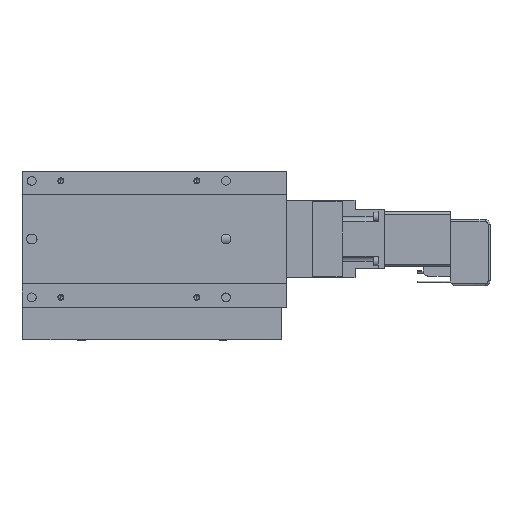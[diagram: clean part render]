
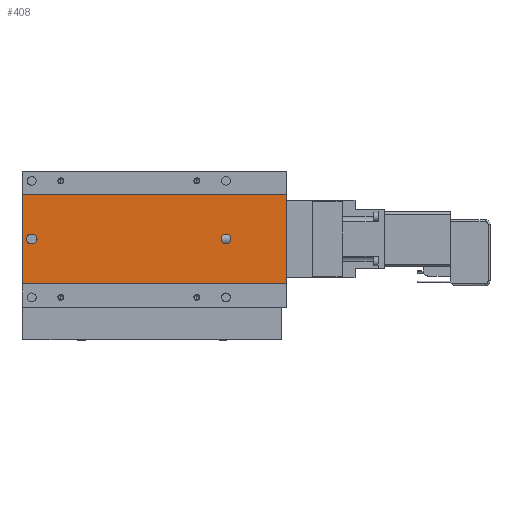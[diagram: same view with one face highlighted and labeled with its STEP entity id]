
A CAD part, front view. The second image highlights one B-rep face of the part: STEP entity #408.
In plain terms, the highlighted planar face has unit normal (0, -1, 0).
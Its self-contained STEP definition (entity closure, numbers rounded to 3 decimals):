
#408=ADVANCED_FACE('',(#1106,#1107,#1108),#1109,.F.);
#1106=FACE_BOUND('',#2377,.T.);
#1107=FACE_OUTER_BOUND('',#2378,.T.);
#1108=FACE_BOUND('',#2379,.T.);
#1109=PLANE('',#2380);
#2377=EDGE_LOOP('',(#4191,#4192,#4193,#4194));
#2378=EDGE_LOOP('',(#4195,#4196,#4197,#4198));
#2379=EDGE_LOOP('',(#4199,#4200,#4201));
#2380=AXIS2_PLACEMENT_3D('',#4202,#4203,#4204);
#4191=ORIENTED_EDGE('',*,*,#8497,.F.);
#4192=ORIENTED_EDGE('',*,*,#8498,.F.);
#4193=ORIENTED_EDGE('',*,*,#8499,.F.);
#4194=ORIENTED_EDGE('',*,*,#8500,.F.);
#4195=ORIENTED_EDGE('',*,*,#8482,.T.);
#4196=ORIENTED_EDGE('',*,*,#8501,.F.);
#4197=ORIENTED_EDGE('',*,*,#8502,.F.);
#4198=ORIENTED_EDGE('',*,*,#8503,.T.);
#4199=ORIENTED_EDGE('',*,*,#8382,.F.);
#4200=ORIENTED_EDGE('',*,*,#8381,.F.);
#4201=ORIENTED_EDGE('',*,*,#8504,.F.);
#4202=CARTESIAN_POINT('',(81.0,0.3,23.1));
#4203=DIRECTION('',(0.0,1.0,0.));
#4204=DIRECTION('',(1.0,0.0,0.0));
#8381=EDGE_CURVE('',#9978,#9980,#9981,.F.);
#8382=EDGE_CURVE('',#9980,#9974,#9982,.F.);
#8482=EDGE_CURVE('',#10169,#10167,#10170,.T.);
#8497=EDGE_CURVE('',#10197,#10198,#10199,.F.);
#8498=EDGE_CURVE('',#10200,#10197,#10201,.T.);
#8499=EDGE_CURVE('',#10202,#10200,#10203,.F.);
#8500=EDGE_CURVE('',#10198,#10202,#10204,.T.);
#8501=EDGE_CURVE('',#10205,#10167,#10206,.T.);
#8502=EDGE_CURVE('',#10207,#10205,#10208,.T.);
#8503=EDGE_CURVE('',#10207,#10169,#10209,.T.);
#8504=EDGE_CURVE('',#9974,#9978,#10210,.F.);
#9974=VERTEX_POINT('',#12506);
#9978=VERTEX_POINT('',#12511);
#9980=VERTEX_POINT('',#12514);
#9981=CIRCLE('',#12515,2.5);
#9982=CIRCLE('',#12516,2.5);
#10167=VERTEX_POINT('',#12757);
#10169=VERTEX_POINT('',#12760);
#10170=LINE('',#12761,#12762);
#10197=VERTEX_POINT('',#12802);
#10198=VERTEX_POINT('',#12803);
#10199=CIRCLE('',#12804,2.5);
#10200=VERTEX_POINT('',#12805);
#10201=LINE('',#12806,#12807);
#10202=VERTEX_POINT('',#12808);
#10203=CIRCLE('',#12809,2.5);
#10204=LINE('',#12810,#12811);
#10205=VERTEX_POINT('',#12812);
#10206=LINE('',#12813,#12814);
#10207=VERTEX_POINT('',#12815);
#10208=LINE('',#12816,#12817);
#10209=LINE('',#12818,#12819);
#10210=CIRCLE('',#12820,2.5);
#12506=CARTESIAN_POINT('',(47.5,0.3,0.));
#12511=CARTESIAN_POINT('',(52.5,0.3,0.));
#12514=CARTESIAN_POINT('',(50.0,0.3,2.5));
#12515=AXIS2_PLACEMENT_3D('',#16137,#16138,#16139);
#12516=AXIS2_PLACEMENT_3D('',#16140,#16141,#16142);
#12757=CARTESIAN_POINT('',(-55.0,0.3,-23.1));
#12760=CARTESIAN_POINT('',(-55.0,0.3,23.1));
#12761=CARTESIAN_POINT('',(-55.0,0.3,23.1));
#12762=VECTOR('',#16326,1000.0);
#12802=CARTESIAN_POINT('',(-50.25,0.3,2.5));
#12803=CARTESIAN_POINT('',(-50.25,0.3,-2.5));
#12804=AXIS2_PLACEMENT_3D('',#16343,#16344,#16345);
#12805=CARTESIAN_POINT('',(-49.75,0.3,2.5));
#12806=CARTESIAN_POINT('',(81.0,0.3,2.5));
#12807=VECTOR('',#16346,1000.0);
#12808=CARTESIAN_POINT('',(-49.75,0.3,-2.5));
#12809=AXIS2_PLACEMENT_3D('',#16347,#16348,#16349);
#12810=CARTESIAN_POINT('',(81.0,0.3,-2.5));
#12811=VECTOR('',#16350,1000.0);
#12812=CARTESIAN_POINT('',(81.0,0.3,-23.1));
#12813=CARTESIAN_POINT('',(81.0,0.3,-23.1));
#12814=VECTOR('',#16351,1000.0);
#12815=CARTESIAN_POINT('',(81.0,0.3,23.1));
#12816=CARTESIAN_POINT('',(81.0,0.3,23.1));
#12817=VECTOR('',#16352,1000.0);
#12818=CARTESIAN_POINT('',(81.0,0.3,23.1));
#12819=VECTOR('',#16353,1000.0);
#12820=AXIS2_PLACEMENT_3D('',#16354,#16355,#16356);
#16137=CARTESIAN_POINT('',(50.0,0.3,0.0));
#16138=DIRECTION('',(0.0,1.0,0.));
#16139=DIRECTION('',(0.0,0.,1.0));
#16140=CARTESIAN_POINT('',(50.0,0.3,0.0));
#16141=DIRECTION('',(0.0,1.0,0.));
#16142=DIRECTION('',(0.0,0.,1.0));
#16326=DIRECTION('',(0.0,0.,-1.0));
#16343=CARTESIAN_POINT('',(-50.25,0.3,0.));
#16344=DIRECTION('',(0.0,1.0,0.));
#16345=DIRECTION('',(0.0,0.,1.0));
#16346=DIRECTION('',(-1.0,0.0,0.0));
#16347=CARTESIAN_POINT('',(-49.75,0.3,0.));
#16348=DIRECTION('',(0.0,1.0,0.));
#16349=DIRECTION('',(0.0,0.,1.0));
#16350=DIRECTION('',(1.0,0.0,0.0));
#16351=DIRECTION('',(-1.0,0.0,0.0));
#16352=DIRECTION('',(0.0,0.,-1.0));
#16353=DIRECTION('',(-1.0,0.0,0.0));
#16354=CARTESIAN_POINT('',(50.0,0.3,0.0));
#16355=DIRECTION('',(0.0,1.0,0.));
#16356=DIRECTION('',(0.0,0.,1.0));
